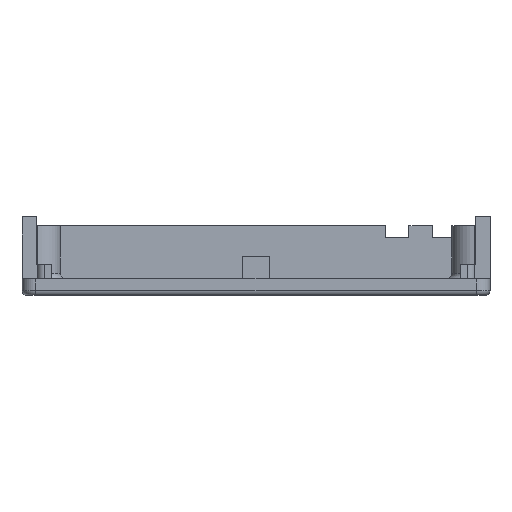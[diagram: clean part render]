
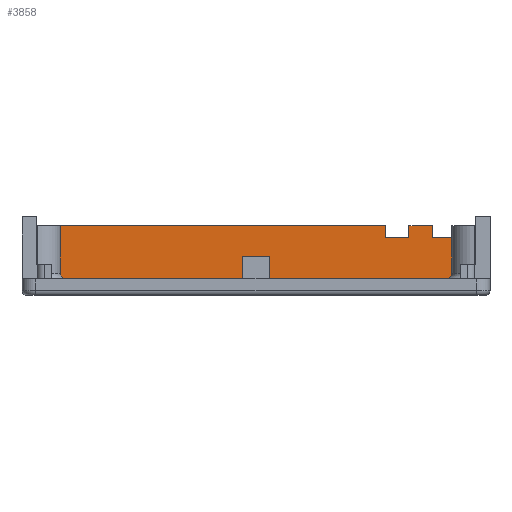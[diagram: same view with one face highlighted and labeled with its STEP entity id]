
A CAD part, left-side view. The second image highlights one B-rep face of the part: STEP entity #3858.
In plain terms, the highlighted planar face has unit normal (-1, 0, 0).
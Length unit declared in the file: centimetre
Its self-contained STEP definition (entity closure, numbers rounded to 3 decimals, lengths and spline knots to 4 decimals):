
#363=FACE_OUTER_BOUND($,#586,.T.);
#586=EDGE_LOOP($,(#2615,#2616,#2617,#2618,#2619,#2620,#2621,#2622,#2623,
#2624,#2625,#2626,#2627,#2628));
#825=LINE($,#5626,#1207);
#829=LINE($,#5633,#1211);
#831=LINE($,#5639,#1213);
#834=LINE($,#5645,#1216);
#841=LINE($,#5661,#1223);
#853=LINE($,#5683,#1235);
#857=LINE($,#5693,#1239);
#859=LINE($,#5697,#1241);
#861=LINE($,#5700,#1243);
#862=LINE($,#5703,#1244);
#863=LINE($,#5705,#1245);
#864=LINE($,#5706,#1246);
#865=LINE($,#5708,#1247);
#866=LINE($,#5709,#1248);
#1207=VECTOR($,#4469,0.1945);
#1211=VECTOR($,#4475,0.4264);
#1213=VECTOR($,#4479,0.516);
#1216=VECTOR($,#4484,7.5816);
#1223=VECTOR($,#4497,0.2627);
#1235=VECTOR($,#4513,0.);
#1239=VECTOR($,#4521,0.2627);
#1241=VECTOR($,#4525,0.5);
#1243=VECTOR($,#4529,0.2627);
#1244=VECTOR($,#4532,1.3505);
#1245=VECTOR($,#4533,9.524);
#1246=VECTOR($,#4534,1.545);
#1247=VECTOR($,#4535,0.2627);
#1248=VECTOR($,#4536,0.5);
#1584=VERTEX_POINT($,#5612);
#1589=VERTEX_POINT($,#5623);
#1590=VERTEX_POINT($,#5625);
#1592=VERTEX_POINT($,#5631);
#1593=VERTEX_POINT($,#5635);
#1595=VERTEX_POINT($,#5638);
#1597=VERTEX_POINT($,#5644);
#1603=VERTEX_POINT($,#5660);
#1611=VERTEX_POINT($,#5682);
#1615=VERTEX_POINT($,#5692);
#1616=VERTEX_POINT($,#5696);
#1617=VERTEX_POINT($,#5702);
#1618=VERTEX_POINT($,#5704);
#1619=VERTEX_POINT($,#5707);
#1966=EDGE_CURVE($,#1590,#1589,#825,.F.);
#1970=EDGE_CURVE($,#1589,#1592,#829,.T.);
#1972=EDGE_CURVE($,#1595,#1593,#831,.T.);
#1975=EDGE_CURVE($,#1597,#1584,#834,.T.);
#1983=EDGE_CURVE($,#1603,#1595,#841,.T.);
#1995=EDGE_CURVE($,#1590,#1611,#853,.F.);
#2000=EDGE_CURVE($,#1615,#1597,#857,.T.);
#2002=EDGE_CURVE($,#1616,#1615,#859,.T.);
#2004=EDGE_CURVE($,#1593,#1616,#861,.T.);
#2005=EDGE_CURVE($,#1584,#1617,#862,.T.);
#2006=EDGE_CURVE($,#1617,#1618,#863,.T.);
#2007=EDGE_CURVE($,#1618,#1611,#864,.T.);
#2008=EDGE_CURVE($,#1592,#1619,#865,.T.);
#2009=EDGE_CURVE($,#1619,#1603,#866,.T.);
#2615=ORIENTED_EDGE($,*,*,#1975,.T.);
#2616=ORIENTED_EDGE($,*,*,#2005,.T.);
#2617=ORIENTED_EDGE($,*,*,#2006,.T.);
#2618=ORIENTED_EDGE($,*,*,#2007,.T.);
#2619=ORIENTED_EDGE($,*,*,#1995,.F.);
#2620=ORIENTED_EDGE($,*,*,#1966,.T.);
#2621=ORIENTED_EDGE($,*,*,#1970,.T.);
#2622=ORIENTED_EDGE($,*,*,#2008,.T.);
#2623=ORIENTED_EDGE($,*,*,#2009,.T.);
#2624=ORIENTED_EDGE($,*,*,#1983,.T.);
#2625=ORIENTED_EDGE($,*,*,#1972,.T.);
#2626=ORIENTED_EDGE($,*,*,#2004,.T.);
#2627=ORIENTED_EDGE($,*,*,#2002,.T.);
#2628=ORIENTED_EDGE($,*,*,#2000,.T.);
#3742=PLANE($,#4087);
#3858=ADVANCED_FACE($,(#363),#3742,.T.);
#4087=AXIS2_PLACEMENT_3D($,#5701,#4530,#4531);
#4469=DIRECTION($,(0.,0.,1.));
#4475=DIRECTION($,(0.,1.,0.));
#4479=DIRECTION($,(0.,1.,0.));
#4484=DIRECTION($,(0.,1.,0.));
#4497=DIRECTION($,(0.,0.,1.));
#4513=DIRECTION($,(0.,1.,0.));
#4521=DIRECTION($,(0.,0.,1.));
#4525=DIRECTION($,(0.,1.,0.));
#4529=DIRECTION($,(0.,0.,-1.));
#4530=DIRECTION('center_axis',(-1.,0.,0.));
#4531=DIRECTION('ref_axis',(0.,0.,-1.));
#4532=DIRECTION($,(0.,0.,-1.));
#4533=DIRECTION($,(0.,-1.,0.));
#4534=DIRECTION($,(0.,0.,1.));
#4535=DIRECTION($,(0.,0.,-1.));
#4536=DIRECTION($,(0.,1.,0.));
#5612=CARTESIAN_POINT('',(-28.316,-65.211,1.4964));
#5623=CARTESIAN_POINT('',(-28.316,-74.735,1.4964));
#5625=CARTESIAN_POINT('',(-28.316,-74.735,1.6909));
#5626=CARTESIAN_POINT($,(-28.316,-74.735,0.5112));
#5631=CARTESIAN_POINT('',(-28.316,-74.3086,1.4964));
#5633=CARTESIAN_POINT($,(-28.316,-69.857,1.4964));
#5635=CARTESIAN_POINT('',(-28.316,-73.2926,1.4964));
#5638=CARTESIAN_POINT('',(-28.316,-73.8086,1.4964));
#5639=CARTESIAN_POINT($,(-28.316,-69.857,1.4964));
#5644=CARTESIAN_POINT('',(-28.316,-72.7926,1.4964));
#5645=CARTESIAN_POINT($,(-28.316,-69.857,1.4964));
#5660=CARTESIAN_POINT('',(-28.316,-73.8086,1.2337));
#5661=CARTESIAN_POINT($,(-28.316,-73.8086,0.3148));
#5682=CARTESIAN_POINT('',(-28.316,-74.735,1.6909));
#5683=CARTESIAN_POINT($,(-28.316,-69.8571,1.6909));
#5692=CARTESIAN_POINT('',(-28.316,-72.7926,1.2337));
#5693=CARTESIAN_POINT($,(-28.316,-72.7926,0.3148));
#5696=CARTESIAN_POINT('',(-28.316,-73.2926,1.2337));
#5697=CARTESIAN_POINT($,(-28.316,-71.3919,1.2337));
#5700=CARTESIAN_POINT($,(-28.316,-73.2926,0.3148));
#5701=CARTESIAN_POINT('Origin',(-28.316,-69.7412,-0.6541));
#5702=CARTESIAN_POINT('',(-28.316,-65.211,0.1459));
#5703=CARTESIAN_POINT($,(-28.316,-65.211,0.5259));
#5704=CARTESIAN_POINT('',(-28.316,-74.735,0.1459));
#5705=CARTESIAN_POINT($,(-28.316,-69.7412,0.1459));
#5706=CARTESIAN_POINT($,(-28.316,-74.735,0.5259));
#5707=CARTESIAN_POINT('',(-28.316,-74.3086,1.2337));
#5708=CARTESIAN_POINT($,(-28.316,-74.3086,0.3148));
#5709=CARTESIAN_POINT($,(-28.316,-71.8999,1.2337));
